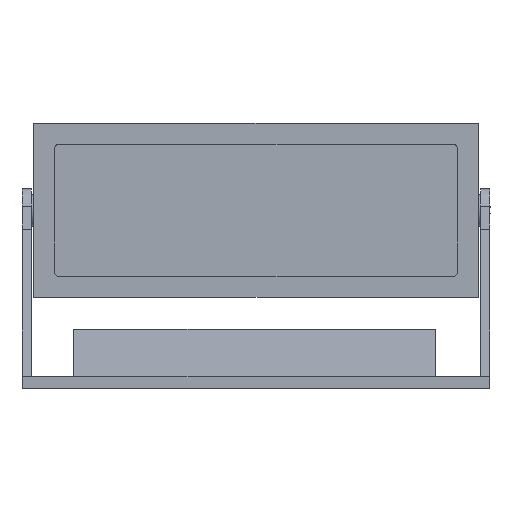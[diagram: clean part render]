
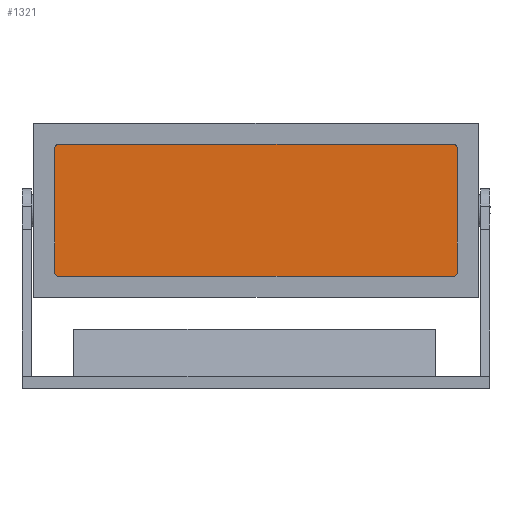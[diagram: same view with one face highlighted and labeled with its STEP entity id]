
A CAD part, front view. The second image highlights one B-rep face of the part: STEP entity #1321.
In plain terms, the highlighted planar face has unit normal (0, -1, 0).
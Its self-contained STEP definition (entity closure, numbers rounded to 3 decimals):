
#77=CIRCLE('',#1490,4.7);
#78=CIRCLE('',#1491,4.7);
#79=CIRCLE('',#1492,4.7);
#80=CIRCLE('',#1493,4.7);
#138=FACE_OUTER_BOUND('',#217,.T.);
#217=EDGE_LOOP('',(#1120,#1121,#1122,#1123,#1124,#1125,#1126,#1127));
#359=LINE('',#2187,#510);
#360=LINE('',#2191,#511);
#361=LINE('',#2195,#512);
#362=LINE('',#2198,#513);
#510=VECTOR('',#1795,10.);
#511=VECTOR('',#1798,10.);
#512=VECTOR('',#1801,10.);
#513=VECTOR('',#1804,10.);
#638=VERTEX_POINT('',#2183);
#639=VERTEX_POINT('',#2184);
#640=VERTEX_POINT('',#2186);
#641=VERTEX_POINT('',#2188);
#642=VERTEX_POINT('',#2190);
#643=VERTEX_POINT('',#2192);
#644=VERTEX_POINT('',#2194);
#645=VERTEX_POINT('',#2196);
#805=EDGE_CURVE('',#638,#639,#77,.T.);
#806=EDGE_CURVE('',#640,#638,#359,.T.);
#807=EDGE_CURVE('',#641,#640,#78,.T.);
#808=EDGE_CURVE('',#642,#641,#360,.T.);
#809=EDGE_CURVE('',#643,#642,#79,.T.);
#810=EDGE_CURVE('',#644,#643,#361,.T.);
#811=EDGE_CURVE('',#645,#644,#80,.T.);
#812=EDGE_CURVE('',#639,#645,#362,.T.);
#1120=ORIENTED_EDGE('',*,*,#805,.F.);
#1121=ORIENTED_EDGE('',*,*,#806,.F.);
#1122=ORIENTED_EDGE('',*,*,#807,.F.);
#1123=ORIENTED_EDGE('',*,*,#808,.F.);
#1124=ORIENTED_EDGE('',*,*,#809,.F.);
#1125=ORIENTED_EDGE('',*,*,#810,.F.);
#1126=ORIENTED_EDGE('',*,*,#811,.F.);
#1127=ORIENTED_EDGE('',*,*,#812,.F.);
#1259=PLANE('',#1489);
#1321=ADVANCED_FACE('',(#138),#1259,.F.);
#1489=AXIS2_PLACEMENT_3D('',#2182,#1791,#1792);
#1490=AXIS2_PLACEMENT_3D('',#2185,#1793,#1794);
#1491=AXIS2_PLACEMENT_3D('',#2189,#1796,#1797);
#1492=AXIS2_PLACEMENT_3D('',#2193,#1799,#1800);
#1493=AXIS2_PLACEMENT_3D('',#2197,#1802,#1803);
#1791=DIRECTION('center_axis',(0.,1.,0.));
#1792=DIRECTION('ref_axis',(1.,0.,0.));
#1793=DIRECTION('center_axis',(0.,1.,0.));
#1794=DIRECTION('ref_axis',(1.,0.,0.));
#1795=DIRECTION('',(0.,0.,-1.));
#1796=DIRECTION('center_axis',(0.,1.,0.));
#1797=DIRECTION('ref_axis',(1.,0.,0.));
#1798=DIRECTION('',(1.,0.,0.));
#1799=DIRECTION('center_axis',(0.,1.,0.));
#1800=DIRECTION('ref_axis',(-1.,0.,0.));
#1801=DIRECTION('',(0.,0.,1.));
#1802=DIRECTION('center_axis',(0.,1.,0.));
#1803=DIRECTION('ref_axis',(-1.,0.,0.));
#1804=DIRECTION('',(-1.,0.,0.));
#2182=CARTESIAN_POINT('Origin',(246.5,143.391,-112.338));
#2183=CARTESIAN_POINT('',(462.2,143.391,-178.338));
#2184=CARTESIAN_POINT('',(457.5,143.391,-183.038));
#2185=CARTESIAN_POINT('Origin',(457.5,143.391,-178.338));
#2186=CARTESIAN_POINT('',(462.2,143.391,-46.338));
#2187=CARTESIAN_POINT('',(462.2,143.391,-178.338));
#2188=CARTESIAN_POINT('',(457.5,143.391,-41.638));
#2189=CARTESIAN_POINT('Origin',(457.5,143.391,-46.338));
#2190=CARTESIAN_POINT('',(35.5,143.391,-41.638));
#2191=CARTESIAN_POINT('',(457.5,143.391,-41.638));
#2192=CARTESIAN_POINT('',(30.8,143.391,-46.338));
#2193=CARTESIAN_POINT('Origin',(35.5,143.391,-46.338));
#2194=CARTESIAN_POINT('',(30.8,143.391,-178.338));
#2195=CARTESIAN_POINT('',(30.8,143.391,-46.338));
#2196=CARTESIAN_POINT('',(35.5,143.391,-183.038));
#2197=CARTESIAN_POINT('Origin',(35.5,143.391,-178.338));
#2198=CARTESIAN_POINT('',(35.5,143.391,-183.038));
